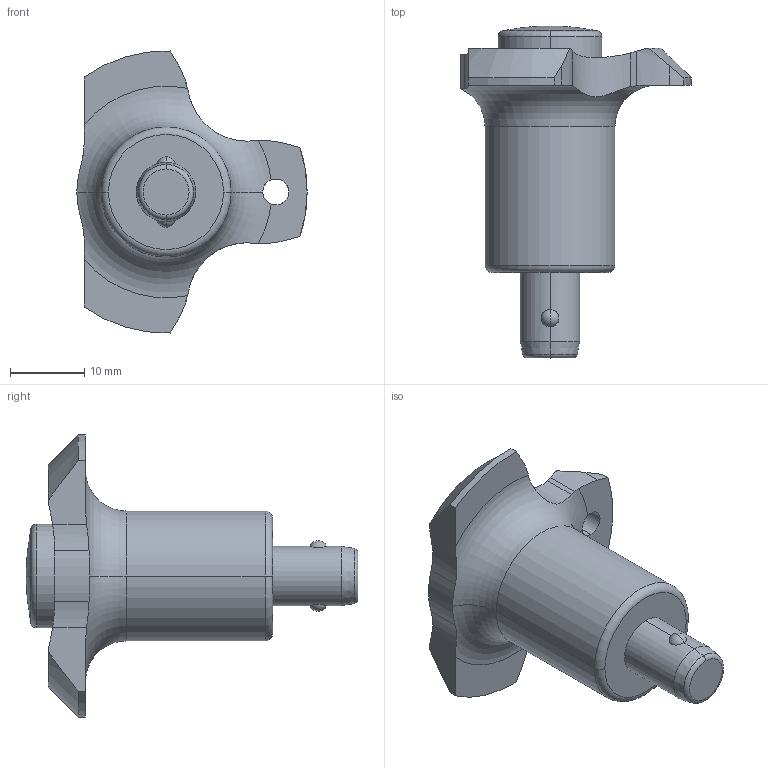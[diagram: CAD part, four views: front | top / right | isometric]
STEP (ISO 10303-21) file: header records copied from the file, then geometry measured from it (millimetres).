
FILE_DESCRIPTION (( 'STEP AP203' ), '1' );
FILE_NAME ('33180.W0020.step', '2025-01-06T11:14:44', ( '' ), ( '' ), 'SwSTEP 2.0', 'SolidWorks 2019', '' );
FILE_SCHEMA (( 'CONFIG_CONTROL_DESIGN' ));
Length unit declared in the file: millimetre
Products named in the file (4): Part1_33180.W0020; Part3_33180.W0020; 33180.W0020; Part2_33180.W0020
Assembly tree (3 placements, depth 2):
  33180.W0020
    Part1_33180.W0020
    Part2_33180.W0020
    Part3_33180.W0020
Bounding box: 31 x 44.7 x 37.98 mm (x, y, z)
Volume: 8523.5 mm3; surface area: 6057 mm2
Topology: 3 solids, 3 shells, 68 faces, 177 edges, 113 vertices
Faces by surface type: cylinder 26, plane 20, torus 8, sphere 8, cone 6
Entity records: 2783 total; most frequent: CARTESIAN_POINT 699, DIRECTION 371, ORIENTED_EDGE 354, EDGE_CURVE 177, AXIS2_PLACEMENT_3D 161, VERTEX_POINT 113, CIRCLE 87, EDGE_LOOP 70
